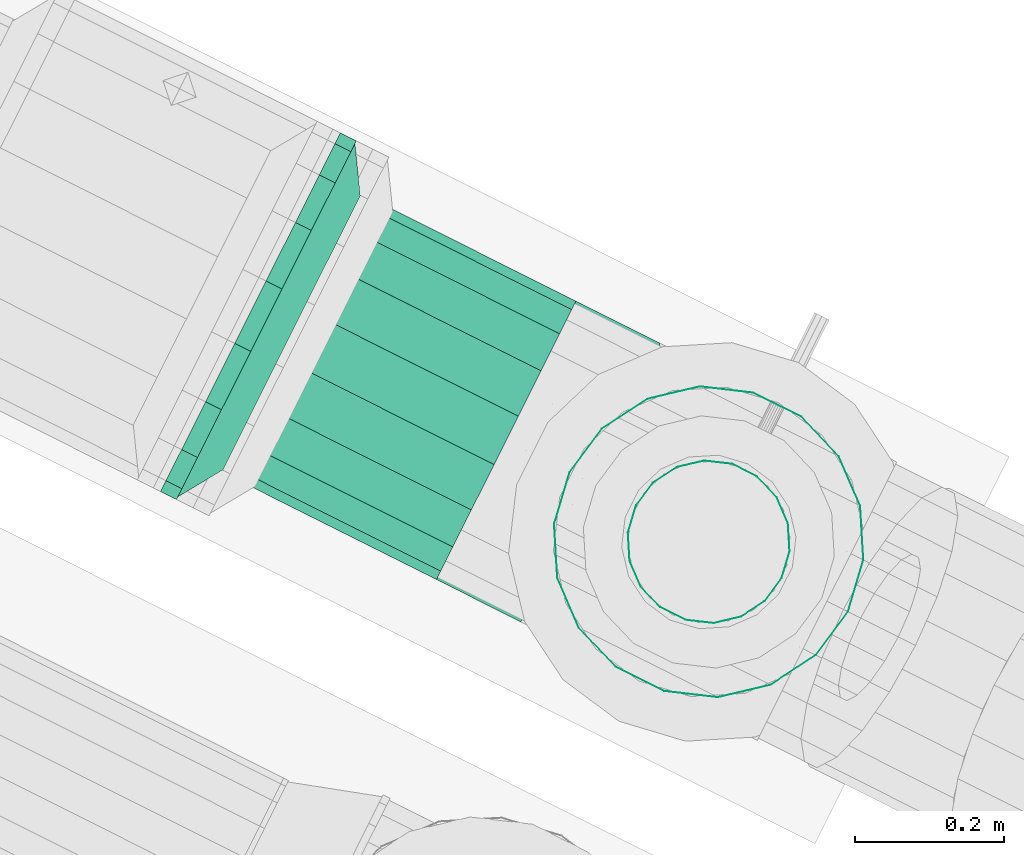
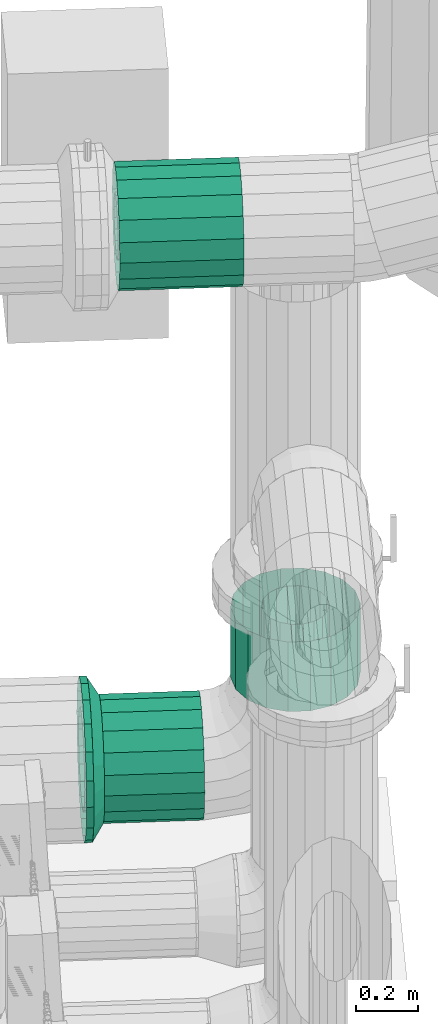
# One storey, part 141 of 152: 3 flow segments, 1 flow fitting.
"""IFC2X3 building model written with IfcOpenShell, lengths in metres."""

from ifc_helpers import new_model, si_unit, derived_unit, direction, frame, origin, place, context, subcontext, project, spatial, face_set, surface_model, source, transform, mapped, material, type_object, type_shapes, element, save


model = new_model("IFC2X3")

# Units and contexts
model_context = context("Model", 3, precision=5.2338327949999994e-05, world=origin(), true_north=direction((0.0, 1.0)))
body_context = subcontext(model_context, "Body", "Model", "MODEL_VIEW")
ifc_project = project(units=[si_unit("LENGTHUNIT", "METRE"), si_unit("AREAUNIT", "SQUARE_METRE"), si_unit("VOLUMEUNIT", "CUBIC_METRE"), si_unit("MASSUNIT", "GRAM", prefix="KILO"), si_unit("PLANEANGLEUNIT", "RADIAN"), derived_unit("THERMALTRANSMITTANCEUNIT", [(si_unit("MASSUNIT", "GRAM", prefix="KILO"), 1), (si_unit("THERMODYNAMICTEMPERATUREUNIT", "KELVIN"), -1), (si_unit("TIMEUNIT", "SECOND"), -3)])], contexts=[model_context])

# Site, building, storey
site_placement = place(None, frame((0.0, 0.0, 0.0), z_axis=(0.0, 0.0, 1.0), x_axis=(0.8939966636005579, -0.4480736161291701, 0.0)))
site = spatial("IfcSite", under=ifc_project, at=site_placement, Name="Default", CompositionType="ELEMENT")
building_placement = place(site_placement, origin())
building = spatial("IfcBuilding", under=site, at=building_placement, CompositionType="ELEMENT")
storey_placement = place(building_placement, frame((0.0, 0.0, 2.7499999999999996)))
storey = spatial("IfcBuildingStorey", under=building, at=storey_placement, Name="1. Obergeschoss", CompositionType="ELEMENT", Elevation=2.7499999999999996)

# Flow fitting
ifc_material = material(Name="IfcSurfaceStyle #1741")
distribution_element_type_1 = type_object("IfcDistributionElementType", Name="Flansch 5771:Flansch 5771", material=ifc_material)
shared_shape_1 = source(origin(), body_context, "Body", "SurfaceModel", [
    surface_model("IfcFaceBasedSurfaceModel", [(11.097653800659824, 8.012208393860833, 3.5694200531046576), (11.097653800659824, 8.049676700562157, 3.5628133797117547), (11.059653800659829, 8.052395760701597, 3.570283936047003), (11.059653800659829, 8.012208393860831, 3.577370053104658), (11.097653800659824, 8.082625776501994, 3.543790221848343), (11.059653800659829, 8.087735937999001, 3.5498802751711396), (11.097653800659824, 8.10708147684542, 3.51464505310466), (11.059653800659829, 8.113966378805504, 3.51862005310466), (11.097653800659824, 8.120094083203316, 3.4788932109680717), (11.059653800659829, 8.127923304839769, 3.480273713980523), (11.097653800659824, 8.12009408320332, 3.440846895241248), (11.059653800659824, 8.12792330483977, 3.4394663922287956), (11.097653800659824, 8.107081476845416, 3.40509505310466), (11.059653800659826, 8.113966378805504, 3.40112005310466), (11.097653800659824, 8.082625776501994, 3.3759498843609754), (11.059653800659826, 8.087735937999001, 3.3698598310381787), (11.097653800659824, 8.04967670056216, 3.3569267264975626), (11.059653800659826, 8.052395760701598, 3.349456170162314), (11.097653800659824, 8.012208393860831, 3.3503200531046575), (11.059653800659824, 8.012208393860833, 3.342370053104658), (11.097653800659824, 7.974740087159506, 3.3569267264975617), (11.059653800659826, 7.972021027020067, 3.3494561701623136), (11.097653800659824, 7.941791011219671, 3.375949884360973), (11.059653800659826, 7.936680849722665, 3.369859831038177), (11.097653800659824, 7.917335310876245, 3.4050950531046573), (11.059653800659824, 7.910450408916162, 3.4011200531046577), (11.097653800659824, 7.904322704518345, 3.440846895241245), (11.059653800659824, 7.896493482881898, 3.4394663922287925), (11.097653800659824, 7.904322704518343, 3.47889321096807), (11.059653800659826, 7.896493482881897, 3.480273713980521), (11.097653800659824, 7.917335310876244, 3.514645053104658), (11.059653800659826, 7.910450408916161, 3.518620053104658), (11.097653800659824, 7.94179101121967, 3.543790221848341), (11.059653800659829, 7.936680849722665, 3.5498802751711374), (11.097653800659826, 7.974740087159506, 3.5628133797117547), (11.059653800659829, 7.972021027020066, 3.570283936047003), (11.059653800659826, 8.182208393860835, 3.4598700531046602), (11.059653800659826, 8.171956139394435, 3.401726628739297), (11.035653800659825, 8.171956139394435, 3.4017266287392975), (11.035653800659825, 8.182208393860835, 3.459870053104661), (11.059653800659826, 8.142435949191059, 3.350596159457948), (11.035653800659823, 8.142435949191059, 3.3505961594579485), (11.059653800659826, 8.097208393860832, 3.3126457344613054), (11.035653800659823, 8.097208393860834, 3.3126457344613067), (11.059653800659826, 8.041728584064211, 3.2924527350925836), (11.035653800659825, 8.041728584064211, 3.2924527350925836), (11.059653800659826, 7.982688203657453, 3.2924527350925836), (11.035653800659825, 7.982688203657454, 3.2924527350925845), (11.059653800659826, 7.927208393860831, 3.3126457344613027), (11.035653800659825, 7.927208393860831, 3.3126457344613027), (11.059653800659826, 7.881980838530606, 3.350596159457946), (11.035653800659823, 7.881980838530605, 3.350596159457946), (11.059653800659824, 7.852460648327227, 3.401726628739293), (11.035653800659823, 7.852460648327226, 3.401726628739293), (11.059653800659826, 7.842208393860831, 3.4598700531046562), (11.035653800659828, 7.842208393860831, 3.4598700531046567), (11.059653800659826, 7.852460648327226, 3.5180134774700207), (11.035653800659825, 7.852460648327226, 3.5180134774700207), (11.05965380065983, 7.881980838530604, 3.5691439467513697), (11.035653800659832, 7.881980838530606, 3.569143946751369), (11.059653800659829, 7.927208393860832, 3.607094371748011), (11.035653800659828, 7.927208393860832, 3.607094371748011), (11.059653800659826, 7.982688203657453, 3.6272873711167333), (11.035653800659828, 7.982688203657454, 3.6272873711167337), (11.059653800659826, 8.041728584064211, 3.627287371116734), (11.035653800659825, 8.041728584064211, 3.627287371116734), (11.05965380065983, 8.097208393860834, 3.6070943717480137), (11.035653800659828, 8.097208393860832, 3.6070943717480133), (11.059653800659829, 8.142435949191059, 3.569143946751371), (11.035653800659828, 8.14243594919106, 3.569143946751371), (11.059653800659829, 8.171956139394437, 3.5180134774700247), (11.035653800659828, 8.171956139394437, 3.518013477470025), (11.059653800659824, 8.012208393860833, 3.459870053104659), (11.097653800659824, 8.012208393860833, 3.6694200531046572), (11.097653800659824, 8.083878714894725, 3.656782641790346), (11.059653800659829, 8.104553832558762, 3.713587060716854), (11.059653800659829, 8.012208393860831, 3.7298700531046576), (11.097653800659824, 8.146904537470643, 3.6203946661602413), (11.059653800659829, 8.185761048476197, 3.6667020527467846), (11.097653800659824, 8.193684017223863, 3.5646450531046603), (11.059653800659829, 8.246035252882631, 3.5948700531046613), (11.097653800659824, 8.21857485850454, 3.4962580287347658), (11.059653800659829, 8.278106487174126, 3.506755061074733), (11.097653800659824, 8.218574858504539, 3.4234820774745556), (11.059653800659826, 8.278106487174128, 3.4129850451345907), (11.097653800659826, 8.193684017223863, 3.3550950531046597), (11.059653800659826, 8.246035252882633, 3.3248700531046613), (11.097653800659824, 8.146904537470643, 3.2993454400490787), (11.059653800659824, 8.185761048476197, 3.253038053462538), (11.097653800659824, 8.083878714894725, 3.2629574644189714), (11.059653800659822, 8.10455383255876, 3.2061530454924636), (11.097653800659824, 8.012208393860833, 3.2503200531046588), (11.059653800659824, 8.012208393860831, 3.1898700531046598), (11.097653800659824, 7.9405380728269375, 3.2629574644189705), (11.059653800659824, 7.9198629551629, 3.2061530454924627), (11.097653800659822, 7.877512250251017, 3.2993454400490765), (11.05965380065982, 7.838655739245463, 3.2530380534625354), (11.097653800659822, 7.830732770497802, 3.355095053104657), (11.059653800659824, 7.778381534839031, 3.3248700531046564), (11.097653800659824, 7.805841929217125, 3.4234820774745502), (11.059653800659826, 7.746310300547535, 3.4129850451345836), (11.097653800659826, 7.805841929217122, 3.4962580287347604), (11.059653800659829, 7.746310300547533, 3.5067550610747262), (11.097653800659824, 7.830732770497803, 3.5646450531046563), (11.059653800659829, 7.778381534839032, 3.594870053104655), (11.097653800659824, 7.877512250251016, 3.6203946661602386), (11.059653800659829, 7.838655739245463, 3.66670205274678), (11.097653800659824, 7.9405380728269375, 3.656782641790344), (11.059653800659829, 7.9198629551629, 3.713587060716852), (11.059653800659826, 8.28220839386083, 3.459870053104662), (11.059653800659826, 8.265925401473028, 3.367524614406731), (11.035653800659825, 8.265925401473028, 3.367524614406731), (11.035653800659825, 8.28220839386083, 3.459870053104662), (11.059653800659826, 8.219040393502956, 3.286317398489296), (11.035653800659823, 8.219040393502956, 3.286317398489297), (11.059653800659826, 8.147208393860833, 3.226043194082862), (11.035653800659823, 8.147208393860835, 3.2260431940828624), (11.059653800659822, 8.059093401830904, 3.1939719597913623), (11.035653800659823, 8.059093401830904, 3.193971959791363), (11.059653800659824, 7.965323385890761, 3.1939719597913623), (11.035653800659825, 7.965323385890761, 3.1939719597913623), (11.059653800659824, 7.8772083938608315, 3.226043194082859), (11.035653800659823, 7.8772083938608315, 3.226043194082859), (11.059653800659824, 7.805376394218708, 3.2863173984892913), (11.035653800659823, 7.805376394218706, 3.286317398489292), (11.059653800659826, 7.758491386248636, 3.367524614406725), (11.035653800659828, 7.758491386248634, 3.367524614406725), (11.059653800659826, 7.742208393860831, 3.459870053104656), (11.035653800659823, 7.74220839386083, 3.4598700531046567), (11.059653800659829, 7.758491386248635, 3.5522154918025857), (11.035653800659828, 7.758491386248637, 3.5522154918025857), (11.059653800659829, 7.805376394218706, 3.633422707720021), (11.035653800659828, 7.805376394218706, 3.633422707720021), (11.059653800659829, 7.877208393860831, 3.6936969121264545), (11.035653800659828, 7.877208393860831, 3.693696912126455), (11.059653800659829, 7.96532338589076, 3.7257681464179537), (11.03565380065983, 7.965323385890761, 3.7257681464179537), (11.059653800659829, 8.059093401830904, 3.7257681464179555), (11.035653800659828, 8.059093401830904, 3.725768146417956), (11.05965380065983, 8.147208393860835, 3.6936969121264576), (11.035653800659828, 8.147208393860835, 3.6936969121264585), (11.059653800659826, 8.219040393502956, 3.633422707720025), (11.035653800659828, 8.219040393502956, 3.6334227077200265), (11.059653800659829, 8.265925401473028, 3.5522154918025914), (11.035653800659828, 8.265925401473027, 3.552215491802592)], [face_set([[[0, 1, 2, 3]], [[1, 4, 5, 2]], [[4, 6, 7, 5]], [[6, 8, 9, 7]], [[8, 10, 11, 9]], [[10, 12, 13, 11]], [[12, 14, 15, 13]], [[14, 16, 17, 15]], [[16, 18, 19, 17]], [[18, 20, 21, 19]], [[20, 22, 23, 21]], [[22, 24, 25, 23]], [[24, 26, 27, 25]], [[26, 28, 29, 27]], [[28, 30, 31, 29]], [[30, 32, 33, 31]], [[32, 34, 35, 33]], [[34, 0, 3, 35]], [[36, 37, 38, 39]], [[37, 40, 41, 38]], [[40, 42, 43, 41]], [[42, 44, 45, 43]], [[44, 46, 47, 45]], [[46, 48, 49, 47]], [[48, 50, 51, 49]], [[50, 52, 53, 51]], [[52, 54, 55, 53]], [[54, 56, 57, 55]], [[56, 58, 59, 57]], [[58, 60, 61, 59]], [[60, 62, 63, 61]], [[62, 64, 65, 63]], [[64, 66, 67, 65]], [[66, 68, 69, 67]], [[68, 70, 71, 69]], [[70, 36, 39, 71]], [[72, 37, 36]], [[72, 40, 37]], [[72, 42, 40]], [[72, 44, 42]], [[72, 46, 44]], [[72, 48, 46]], [[72, 50, 48]], [[72, 52, 50]], [[72, 54, 52]], [[72, 56, 54]], [[72, 58, 56]], [[72, 60, 58]], [[72, 62, 60]], [[72, 64, 62]], [[72, 66, 64]], [[72, 68, 66]], [[72, 70, 68]], [[72, 36, 70]], [[73, 74, 75, 76]], [[74, 77, 78, 75]], [[77, 79, 80, 78]], [[79, 81, 82, 80]], [[81, 83, 84, 82]], [[83, 85, 86, 84]], [[85, 87, 88, 86]], [[87, 89, 90, 88]], [[89, 91, 92, 90]], [[91, 93, 94, 92]], [[93, 95, 96, 94]], [[95, 97, 98, 96]], [[97, 99, 100, 98]], [[99, 101, 102, 100]], [[101, 103, 104, 102]], [[103, 105, 106, 104]], [[105, 107, 108, 106]], [[107, 73, 76, 108]], [[109, 110, 111, 112]], [[110, 113, 114, 111]], [[113, 115, 116, 114]], [[115, 117, 118, 116]], [[117, 119, 120, 118]], [[119, 121, 122, 120]], [[121, 123, 124, 122]], [[123, 125, 126, 124]], [[125, 127, 128, 126]], [[127, 129, 130, 128]], [[129, 131, 132, 130]], [[131, 133, 134, 132]], [[133, 135, 136, 134]], [[135, 137, 138, 136]], [[137, 139, 140, 138]], [[139, 141, 142, 140]], [[141, 143, 144, 142]], [[143, 109, 112, 144]]])]),
])
type_shapes(distribution_element_type_1, [shared_shape_1])
flow_fitting_placement = place(storey_placement, frame((0.0, 0.0, -2.7499999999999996)))
element("IfcFlowFitting", 1, at=flow_fitting_placement, inside=storey, type_object=distribution_element_type_1, material=ifc_material, Name="Flansch", ObjectType="Flansch", context=body_context, shape_type="MappedRepresentation", body=[
    mapped(shared_shape_1, transform((0.0, 0.0, 0.0), scale=1.0)),
])

# Flow segments
distribution_element_type_2 = type_object("IfcDistributionElementType", Name="Stahlrohr nach DIN 2448 223304:Stahlrohr nach DIN 2448 223304", material=ifc_material)
shared_shape_2 = source(origin(), body_context, "Body", "SurfaceModel", [
    surface_model("IfcFaceBasedSurfaceModel", [(11.547814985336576, 8.121758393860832, 5.553956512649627), (11.547814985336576, 8.115151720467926, 5.516488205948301), (11.146653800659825, 8.115151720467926, 5.516488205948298), (11.146653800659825, 8.121758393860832, 5.553956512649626), (11.547814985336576, 8.096128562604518, 5.483539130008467), (11.146653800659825, 8.096128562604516, 5.483539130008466), (11.547814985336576, 8.06698339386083, 5.459083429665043), (11.146653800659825, 8.06698339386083, 5.459083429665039), (11.547814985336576, 8.031231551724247, 5.4460708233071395), (11.146653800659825, 8.031231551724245, 5.446070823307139), (11.547814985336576, 7.993185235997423, 5.4460708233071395), (11.146653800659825, 7.9931852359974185, 5.4460708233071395), (11.547814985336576, 7.957433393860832, 5.459083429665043), (11.146653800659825, 7.957433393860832, 5.45908342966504), (11.547814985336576, 7.928288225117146, 5.483539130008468), (11.146653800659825, 7.928288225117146, 5.483539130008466), (11.547814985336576, 7.909265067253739, 5.516488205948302), (11.146653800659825, 7.909265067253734, 5.516488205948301), (11.547814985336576, 7.902658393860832, 5.553956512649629), (11.146653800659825, 7.902658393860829, 5.553956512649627), (11.547814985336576, 7.909265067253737, 5.591424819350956), (11.146653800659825, 7.909265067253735, 5.591424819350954), (11.547814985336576, 7.928288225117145, 5.624373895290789), (11.146653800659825, 7.928288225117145, 5.6243738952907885), (11.547814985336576, 7.957433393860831, 5.648829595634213), (11.146653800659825, 7.957433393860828, 5.648829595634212), (11.547814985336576, 7.993185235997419, 5.661842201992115), (11.146653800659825, 7.993185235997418, 5.661842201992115), (11.547814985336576, 8.031231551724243, 5.661842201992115), (11.146653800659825, 8.031231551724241, 5.661842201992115), (11.547814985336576, 8.06698339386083, 5.648829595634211), (11.146653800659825, 8.066983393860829, 5.648829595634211), (11.547814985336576, 8.096128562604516, 5.624373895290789), (11.146653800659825, 8.096128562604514, 5.6243738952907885), (11.547814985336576, 8.115151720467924, 5.591424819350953), (11.146653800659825, 8.115151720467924, 5.591424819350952), (11.547814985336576, 8.22175839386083, 5.553956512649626), (11.547814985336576, 8.209120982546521, 5.482286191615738), (11.146653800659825, 8.209120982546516, 5.482286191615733), (11.146653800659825, 8.221758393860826, 5.553956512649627), (11.547814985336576, 8.172733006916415, 5.4192603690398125), (11.146653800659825, 8.172733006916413, 5.419260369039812), (11.547814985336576, 8.11698339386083, 5.372480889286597), (11.146653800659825, 8.11698339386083, 5.372480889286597), (11.547814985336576, 8.048596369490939, 5.347590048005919), (11.146653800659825, 8.048596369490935, 5.347590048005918), (11.547814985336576, 7.975820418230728, 5.347590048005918), (11.146653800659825, 7.975820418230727, 5.347590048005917), (11.547814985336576, 7.907433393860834, 5.372480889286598), (11.146653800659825, 7.907433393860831, 5.372480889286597), (11.547814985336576, 7.851683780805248, 5.419260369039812), (11.146653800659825, 7.851683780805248, 5.419260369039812), (11.547814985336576, 7.815295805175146, 5.482286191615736), (11.146653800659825, 7.815295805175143, 5.482286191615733), (11.547814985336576, 7.802658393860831, 5.553956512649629), (11.146653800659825, 7.802658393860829, 5.553956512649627), (11.547814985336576, 7.815295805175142, 5.625626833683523), (11.146653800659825, 7.815295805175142, 5.625626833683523), (11.547814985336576, 7.851683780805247, 5.688652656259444), (11.146653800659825, 7.851683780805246, 5.688652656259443), (11.547814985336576, 7.907433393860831, 5.735432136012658), (11.146653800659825, 7.907433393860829, 5.735432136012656), (11.547814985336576, 7.975820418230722, 5.760322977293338), (11.146653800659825, 7.975820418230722, 5.760322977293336), (11.547814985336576, 8.048596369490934, 5.760322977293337), (11.146653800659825, 8.048596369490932, 5.760322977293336), (11.547814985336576, 8.116983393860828, 5.735432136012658), (11.146653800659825, 8.116983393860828, 5.735432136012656), (11.547814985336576, 8.172733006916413, 5.6886526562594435), (11.146653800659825, 8.17273300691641, 5.68865265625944), (11.547814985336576, 8.209120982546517, 5.625626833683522), (11.146653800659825, 8.209120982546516, 5.625626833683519)], [face_set([[[0, 1, 2, 3]], [[1, 4, 5, 2]], [[4, 6, 7, 5]], [[6, 8, 9, 7]], [[8, 10, 11, 9]], [[10, 12, 13, 11]], [[12, 14, 15, 13]], [[14, 16, 17, 15]], [[16, 18, 19, 17]], [[18, 20, 21, 19]], [[20, 22, 23, 21]], [[22, 24, 25, 23]], [[24, 26, 27, 25]], [[26, 28, 29, 27]], [[28, 30, 31, 29]], [[30, 32, 33, 31]], [[32, 34, 35, 33]], [[34, 0, 3, 35]], [[36, 37, 38, 39]], [[37, 40, 41, 38]], [[40, 42, 43, 41]], [[42, 44, 45, 43]], [[44, 46, 47, 45]], [[46, 48, 49, 47]], [[48, 50, 51, 49]], [[50, 52, 53, 51]], [[52, 54, 55, 53]], [[54, 56, 57, 55]], [[56, 58, 59, 57]], [[58, 60, 61, 59]], [[60, 62, 63, 61]], [[62, 64, 65, 63]], [[64, 66, 67, 65]], [[66, 68, 69, 67]], [[68, 70, 71, 69]], [[70, 36, 39, 71]]])]),
])
type_shapes(distribution_element_type_2, [shared_shape_2])
flow_segment_1_placement = place(storey_placement, frame((0.0, 0.0, -2.7499999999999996)))
element("IfcFlowSegment", 2, at=flow_segment_1_placement, inside=storey, type_object=distribution_element_type_2, material=ifc_material, Name="Stahlrohr nach DIN 2448", ObjectType="Stahlrohr nach DIN 2448", context=body_context, shape_type="MappedRepresentation", body=[
    mapped(shared_shape_2, transform((0.0, 0.0, 0.0), scale=1.0)),
])
distribution_element_type_3 = type_object("IfcDistributionElementType", Name="Stahlrohr nach DIN 2448 223585:Stahlrohr nach DIN 2448 223585", material=ifc_material)
shared_shape_3 = source(origin(), body_context, "Body", "SurfaceModel", [
    surface_model("IfcFaceBasedSurfaceModel", [(11.616264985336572, 8.01220839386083, 4.039028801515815), (11.622871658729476, 8.049676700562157, 4.039028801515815), (11.622871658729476, 8.049676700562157, 3.765028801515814), (11.616264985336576, 8.012208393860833, 3.765028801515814), (11.641894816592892, 8.082625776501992, 4.039028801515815), (11.641894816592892, 8.082625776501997, 3.765028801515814), (11.671039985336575, 8.107081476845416, 4.039028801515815), (11.671039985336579, 8.10708147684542, 3.765028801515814), (11.706791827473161, 8.12009408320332, 4.039028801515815), (11.706791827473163, 8.12009408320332, 3.765028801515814), (11.744838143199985, 8.12009408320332, 4.039028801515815), (11.74483814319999, 8.120094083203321, 3.765028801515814), (11.780589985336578, 8.107081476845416, 4.039028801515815), (11.780589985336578, 8.107081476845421, 3.765028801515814), (11.809735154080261, 8.082625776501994, 4.039028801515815), (11.809735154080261, 8.082625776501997, 3.765028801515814), (11.828758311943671, 8.049676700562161, 4.039028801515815), (11.828758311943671, 8.049676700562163, 3.765028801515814), (11.835364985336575, 8.012208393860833, 4.039028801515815), (11.835364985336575, 8.012208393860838, 3.765028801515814), (11.82875831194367, 7.974740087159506, 4.039028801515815), (11.82875831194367, 7.974740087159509, 3.765028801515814), (11.80973515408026, 7.9417910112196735, 4.039028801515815), (11.80973515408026, 7.941791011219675, 3.765028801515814), (11.780589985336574, 7.917335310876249, 4.039028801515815), (11.780589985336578, 7.917335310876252, 3.765028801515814), (11.744838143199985, 7.904322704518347, 4.039028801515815), (11.74483814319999, 7.904322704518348, 3.765028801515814), (11.706791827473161, 7.904322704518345, 4.039028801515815), (11.706791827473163, 7.904322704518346, 3.765028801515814), (11.671039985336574, 7.917335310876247, 4.039028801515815), (11.671039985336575, 7.917335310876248, 3.765028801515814), (11.641894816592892, 7.94179101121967, 4.039028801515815), (11.641894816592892, 7.941791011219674, 3.765028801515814), (11.62287165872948, 7.974740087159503, 4.039028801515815), (11.62287165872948, 7.974740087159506, 3.765028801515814), (11.516264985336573, 8.012208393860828, 4.039028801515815), (11.528902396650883, 8.083878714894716, 4.039028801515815), (11.52890239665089, 8.083878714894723, 3.765028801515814), (11.516264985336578, 8.01220839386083, 3.765028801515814), (11.565290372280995, 8.146904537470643, 4.039028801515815), (11.565290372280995, 8.146904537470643, 3.765028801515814), (11.621039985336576, 8.19368401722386, 4.039028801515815), (11.621039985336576, 8.19368401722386, 3.765028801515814), (11.68942700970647, 8.218574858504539, 4.039028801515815), (11.68942700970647, 8.218574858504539, 3.765028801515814), (11.76220296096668, 8.218574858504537, 4.039028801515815), (11.76220296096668, 8.21857485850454, 3.765028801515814), (11.830589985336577, 8.19368401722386, 4.039028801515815), (11.830589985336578, 8.193684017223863, 3.765028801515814), (11.886339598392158, 8.14690453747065, 4.039028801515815), (11.886339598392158, 8.14690453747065, 3.765028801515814), (11.922727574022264, 8.083878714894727, 4.039028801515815), (11.922727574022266, 8.083878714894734, 3.765028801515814), (11.935364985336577, 8.012208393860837, 4.039028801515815), (11.935364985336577, 8.01220839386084, 3.765028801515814), (11.922727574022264, 7.940538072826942, 4.039028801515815), (11.922727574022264, 7.940538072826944, 3.765028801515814), (11.886339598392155, 7.877512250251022, 4.039028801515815), (11.886339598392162, 7.877512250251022, 3.765028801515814), (11.830589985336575, 7.830732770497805, 4.039028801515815), (11.830589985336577, 7.830732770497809, 3.765028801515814), (11.76220296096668, 7.805841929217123, 4.039028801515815), (11.76220296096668, 7.805841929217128, 3.765028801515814), (11.68942700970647, 7.805841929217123, 4.039028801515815), (11.68942700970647, 7.805841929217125, 3.765028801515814), (11.621039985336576, 7.830732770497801, 4.039028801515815), (11.621039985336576, 7.830732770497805, 3.765028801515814), (11.565290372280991, 7.877512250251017, 4.039028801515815), (11.565290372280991, 7.877512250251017, 3.765028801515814), (11.528902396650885, 7.940538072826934, 4.039028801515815), (11.52890239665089, 7.9405380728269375, 3.765028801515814)], [face_set([[[0, 1, 2, 3]], [[1, 4, 5, 2]], [[4, 6, 7, 5]], [[6, 8, 9, 7]], [[8, 10, 11, 9]], [[10, 12, 13, 11]], [[12, 14, 15, 13]], [[14, 16, 17, 15]], [[16, 18, 19, 17]], [[18, 20, 21, 19]], [[20, 22, 23, 21]], [[22, 24, 25, 23]], [[24, 26, 27, 25]], [[26, 28, 29, 27]], [[28, 30, 31, 29]], [[30, 32, 33, 31]], [[32, 34, 35, 33]], [[34, 0, 3, 35]], [[36, 37, 38, 39]], [[37, 40, 41, 38]], [[40, 42, 43, 41]], [[42, 44, 45, 43]], [[44, 46, 47, 45]], [[46, 48, 49, 47]], [[48, 50, 51, 49]], [[50, 52, 53, 51]], [[52, 54, 55, 53]], [[54, 56, 57, 55]], [[56, 58, 59, 57]], [[58, 60, 61, 59]], [[60, 62, 63, 61]], [[62, 64, 65, 63]], [[64, 66, 67, 65]], [[66, 68, 69, 67]], [[68, 70, 71, 69]], [[70, 36, 39, 71]]])]),
])
type_shapes(distribution_element_type_3, [shared_shape_3])
flow_segment_2_placement = place(storey_placement, frame((0.0, 0.0, -2.7499999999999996)))
element("IfcFlowSegment", 3, at=flow_segment_2_placement, inside=storey, type_object=distribution_element_type_3, material=ifc_material, Name="Stahlrohr nach DIN 2448", ObjectType="Stahlrohr nach DIN 2448", context=body_context, shape_type="MappedRepresentation", body=[
    mapped(shared_shape_3, transform((0.0, 0.0, 0.0), scale=1.0)),
])
distribution_element_type_4 = type_object("IfcDistributionElementType", Name="Stahlrohr nach DIN 2448 223866:Stahlrohr nach DIN 2448 223866", material=ifc_material)
shared_shape_4 = source(origin(), body_context, "Body", "SurfaceModel", [
    surface_model("IfcFaceBasedSurfaceModel", [(11.420814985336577, 7.902658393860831, 3.4598700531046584), (11.420814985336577, 7.909265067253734, 3.497338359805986), (11.097653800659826, 7.909265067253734, 3.497338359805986), (11.097653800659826, 7.902658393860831, 3.459870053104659), (11.420814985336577, 7.928288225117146, 3.5302874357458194), (11.097653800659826, 7.928288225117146, 3.5302874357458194), (11.420814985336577, 7.957433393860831, 3.554743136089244), (11.097653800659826, 7.957433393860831, 3.554743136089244), (11.420814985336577, 7.993185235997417, 3.567755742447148), (11.097653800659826, 7.9931852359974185, 3.5677557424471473), (11.420814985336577, 8.03123155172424, 3.5677557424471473), (11.097653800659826, 8.031231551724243, 3.567755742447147), (11.420814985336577, 8.06698339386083, 3.554743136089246), (11.097653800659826, 8.06698339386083, 3.554743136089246), (11.420814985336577, 8.096128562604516, 3.5302874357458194), (11.097653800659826, 8.096128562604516, 3.5302874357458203), (11.420814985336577, 8.115151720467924, 3.497338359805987), (11.097653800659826, 8.115151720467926, 3.4973383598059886), (11.420814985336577, 8.121758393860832, 3.459870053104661), (11.097653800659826, 8.121758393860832, 3.4598700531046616), (11.420814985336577, 8.115151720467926, 3.422401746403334), (11.097653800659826, 8.115151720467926, 3.4224017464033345), (11.420814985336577, 8.096128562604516, 3.3894526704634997), (11.097653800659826, 8.096128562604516, 3.3894526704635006), (11.420814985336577, 8.06698339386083, 3.3649969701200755), (11.097653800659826, 8.06698339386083, 3.3649969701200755), (11.420814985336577, 8.031231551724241, 3.3519843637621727), (11.097653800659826, 8.031231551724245, 3.3519843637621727), (11.420814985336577, 7.9931852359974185, 3.3519843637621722), (11.097653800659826, 7.9931852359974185, 3.3519843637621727), (11.420814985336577, 7.957433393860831, 3.3649969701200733), (11.097653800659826, 7.957433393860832, 3.3649969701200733), (11.420814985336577, 7.928288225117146, 3.3894526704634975), (11.097653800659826, 7.928288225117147, 3.389452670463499), (11.420814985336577, 7.909265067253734, 3.422401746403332), (11.097653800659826, 7.909265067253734, 3.4224017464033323), (11.420814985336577, 7.8026583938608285, 3.4598700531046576), (11.420814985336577, 7.815295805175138, 3.5315403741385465), (11.097653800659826, 7.8152958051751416, 3.5315403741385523), (11.097653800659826, 7.80265839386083, 3.4598700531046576), (11.420814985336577, 7.851683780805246, 3.5945661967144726), (11.097653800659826, 7.851683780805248, 3.5945661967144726), (11.420814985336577, 7.90743339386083, 3.641345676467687), (11.097653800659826, 7.907433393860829, 3.641345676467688), (11.420814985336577, 7.975820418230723, 3.6662365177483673), (11.097653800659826, 7.9758204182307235, 3.6662365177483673), (11.420814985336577, 8.048596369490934, 3.6662365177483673), (11.097653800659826, 8.048596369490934, 3.6662365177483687), (11.420814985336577, 8.11698339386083, 3.64134567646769), (11.097653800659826, 8.11698339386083, 3.64134567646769), (11.420814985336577, 8.172733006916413, 3.5945661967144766), (11.097653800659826, 8.172733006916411, 3.594566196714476), (11.420814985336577, 8.209120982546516, 3.5315403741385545), (11.097653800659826, 8.209120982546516, 3.5315403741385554), (11.420814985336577, 8.22175839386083, 3.459870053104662), (11.097653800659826, 8.22175839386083, 3.4598700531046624), (11.420814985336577, 8.20912098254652, 3.388199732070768), (11.097653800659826, 8.209120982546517, 3.3881997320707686), (11.420814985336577, 8.172733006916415, 3.325173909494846), (11.097653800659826, 8.172733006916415, 3.3251739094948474), (11.420814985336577, 8.11698339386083, 3.2783944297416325), (11.097653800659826, 8.116983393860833, 3.2783944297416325), (11.420814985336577, 8.048596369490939, 3.2535035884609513), (11.097653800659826, 8.048596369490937, 3.253503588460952), (11.420814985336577, 7.975820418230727, 3.253503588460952), (11.097653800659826, 7.975820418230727, 3.253503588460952), (11.420814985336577, 7.907433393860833, 3.2783944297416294), (11.097653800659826, 7.907433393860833, 3.2783944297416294), (11.420814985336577, 7.851683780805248, 3.3251739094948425), (11.097653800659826, 7.85168378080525, 3.3251739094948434), (11.420814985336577, 7.815295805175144, 3.3881997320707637), (11.097653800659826, 7.815295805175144, 3.3881997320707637)], [face_set([[[0, 1, 2, 3]], [[1, 4, 5, 2]], [[4, 6, 7, 5]], [[6, 8, 9, 7]], [[8, 10, 11, 9]], [[10, 12, 13, 11]], [[12, 14, 15, 13]], [[14, 16, 17, 15]], [[16, 18, 19, 17]], [[18, 20, 21, 19]], [[20, 22, 23, 21]], [[22, 24, 25, 23]], [[24, 26, 27, 25]], [[26, 28, 29, 27]], [[28, 30, 31, 29]], [[30, 32, 33, 31]], [[32, 34, 35, 33]], [[34, 0, 3, 35]], [[36, 37, 38, 39]], [[37, 40, 41, 38]], [[40, 42, 43, 41]], [[42, 44, 45, 43]], [[44, 46, 47, 45]], [[46, 48, 49, 47]], [[48, 50, 51, 49]], [[50, 52, 53, 51]], [[52, 54, 55, 53]], [[54, 56, 57, 55]], [[56, 58, 59, 57]], [[58, 60, 61, 59]], [[60, 62, 63, 61]], [[62, 64, 65, 63]], [[64, 66, 67, 65]], [[66, 68, 69, 67]], [[68, 70, 71, 69]], [[70, 36, 39, 71]]])]),
])
type_shapes(distribution_element_type_4, [shared_shape_4])
flow_segment_3_placement = place(storey_placement, frame((0.0, 0.0, -2.7499999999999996)))
element("IfcFlowSegment", 4, at=flow_segment_3_placement, inside=storey, type_object=distribution_element_type_4, material=ifc_material, Name="Stahlrohr nach DIN 2448", ObjectType="Stahlrohr nach DIN 2448", context=body_context, shape_type="MappedRepresentation", body=[
    mapped(shared_shape_4, transform((0.0, 0.0, 0.0), scale=1.0)),
])

save(model, "model.ifc")
